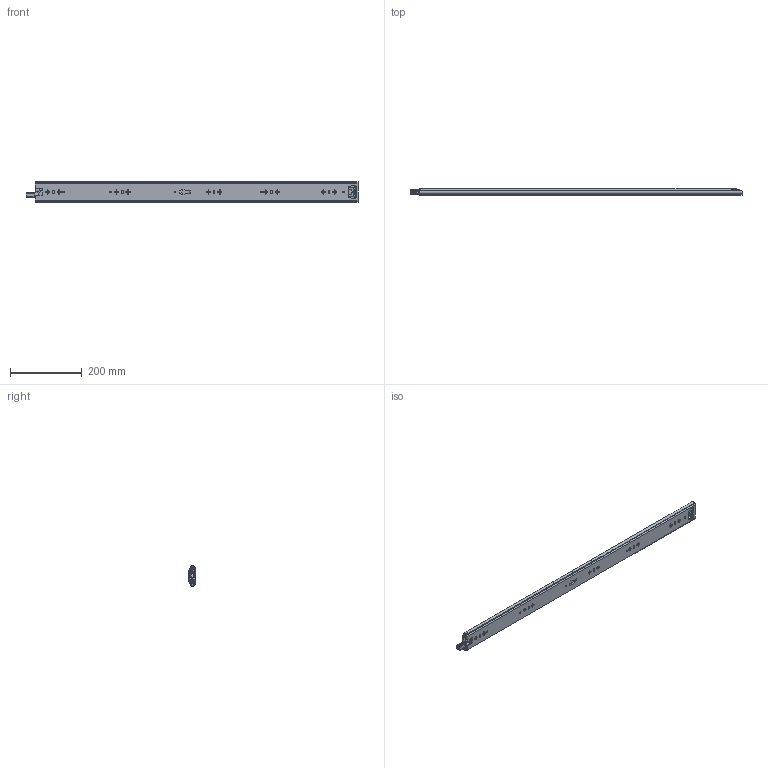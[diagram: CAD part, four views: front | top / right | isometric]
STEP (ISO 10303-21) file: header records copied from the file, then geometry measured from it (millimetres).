
FILE_DESCRIPTION((''),'2;1');
FILE_NAME('KP-57-01ZUZHUANGTU-36_ASM','2023-04-01T',('jishu015'),(''),'PRO/ENGINEER BY PARAMETRIC TECHNOLOGY CORPORATION, 2010280','PRO/ENGINEER BY PARAMETRIC TECHNOLOGY CORPORATION, 2010280','');
FILE_SCHEMA(('CONFIG_CONTROL_DESIGN'));
Products named in the file (22): KP-57-01WEIKE-18________; 1057WEIJIAO________; WAIKE_______ASM; KP-57-01ZHONGGUI-18________; ZHONGGUIPEIJIAN-11______; ZHONGGUISUOKOU-11______; KP-57-01ZHONGGUI-18_________ASM; 1057XIAOZHUJIA________; 1057-5-6GANZHU________; 1057XIAOZHUJIA-14GE_________ASM; KP-57-01NEIGUI-18________; PJ-57-08______; DIAOPIAN-11______; 50XINSUOKOU-1______; TANHUANG______; 1053-3SBANJI122____; JIAO11____; KP-57-01NEIGUI-18_________ASM; 1053ZHUTIAO-175____________; 53-5-6GANZHU____________; 1053ZHUTIAO-175MM_______ASM; KP-57-01ZUZHUANGTU-36_ASM
Assembly tree (100 placements, depth 3):
  KP-57-01ZUZHUANGTU-36_ASM
    WAIKE_______ASM
      KP-57-01WEIKE-18________
      1057WEIJIAO________
    KP-57-01ZHONGGUI-18_________ASM
      KP-57-01ZHONGGUI-18________
      ZHONGGUIPEIJIAN-11______
      ZHONGGUISUOKOU-11______
    1057XIAOZHUJIA-14GE_________ASM
      1057XIAOZHUJIA________
      1057-5-6GANZHU________  x64
    KP-57-01NEIGUI-18_________ASM
      KP-57-01NEIGUI-18________
      PJ-57-08______
      DIAOPIAN-11______
      50XINSUOKOU-1______
      TANHUANG______
      1053-3SBANJI122____
      JIAO11____
    1053ZHUTIAO-175MM_______ASM  x2
      1053ZHUTIAO-175____________
      53-5-6GANZHU____________
Bounding box: 925.42 x 19 x 57.67 mm (x, y, z)
Volume: 394533.6 mm3; surface area: 430656.3 mm2
Topology: 114 solids, 114 shells, 2804 faces, 8100 edges, 5051 vertices
Faces by surface type: cylinder 1219, plane 1124, sphere 203, bspline 126, cone 84, torus 25, extrusion 23
Entity records: 90247 total; most frequent: CARTESIAN_POINT 22191, ORIENTED_EDGE 14412, DIRECTION 14023, EDGE_CURVE 7206, AXIS2_PLACEMENT_3D 4849, VERTEX_POINT 4655, VECTOR 4325, LINE 4302
